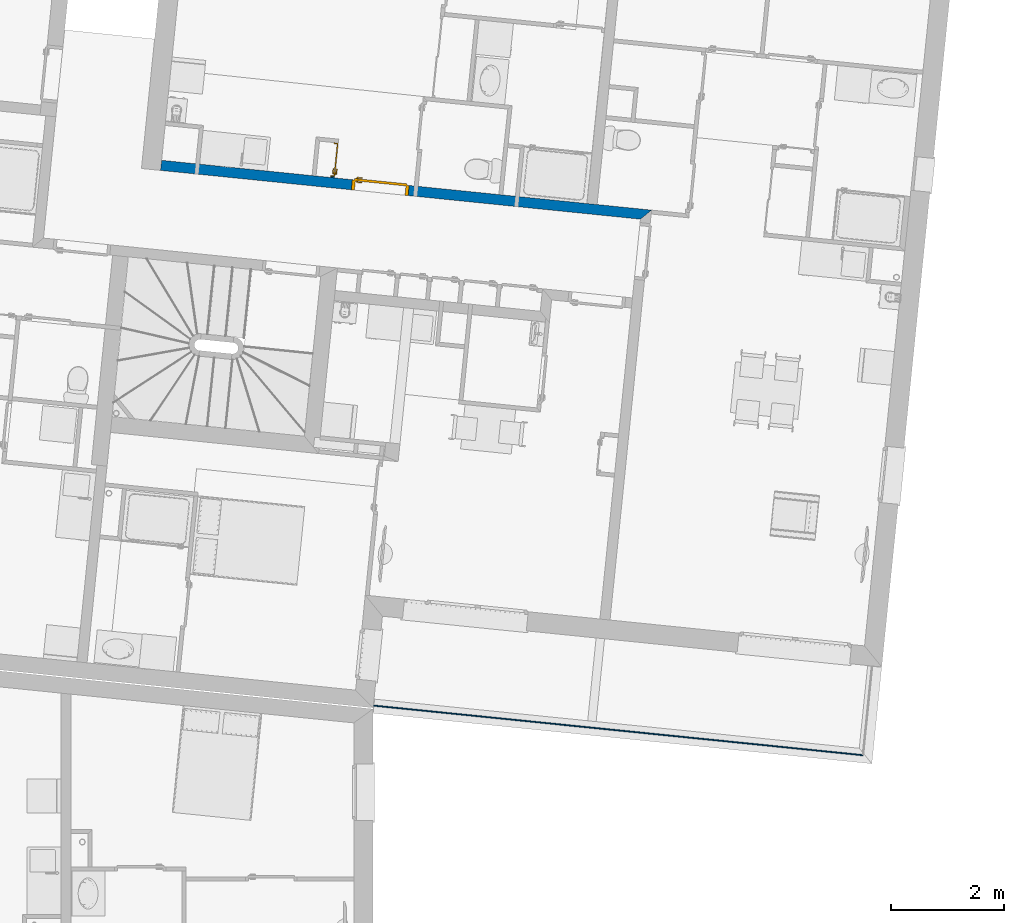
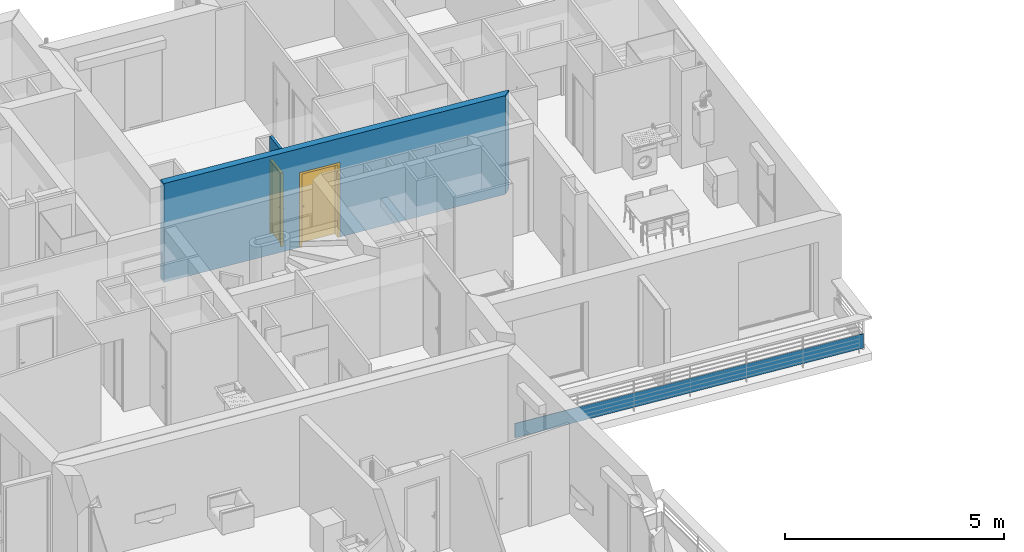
# One storey, part 52 of 164: 3 walls, 2 doors, 2 openings.
"""IFC2X3 building model written with IfcOpenShell, lengths in millimetres."""

from ifc_helpers import new_model, entity, si_unit, converted_unit, derived_unit, money_unit, direction, frame, origin_with_axes, origin_2d_with_axis, place, context, subcontext, project, spatial, polyline, rectangle, outline, extrude, faceted_brep, source, transform, mapped, material, layer, layer_set, layer_usage, type_object, element, fill, save


model = new_model("IFC2X3")

# Units and contexts
model_context = context("Model", 3, precision=0.01, world=origin_with_axes(), true_north=direction((0.0, 1.0)))
body_context = subcontext(model_context, "Body", "Model", "MODEL_VIEW")
ifc_project = project(units=[si_unit("LENGTHUNIT", "METRE", prefix="MILLI"), si_unit("AREAUNIT", "SQUARE_METRE"), si_unit("VOLUMEUNIT", "CUBIC_METRE"), converted_unit("PLANEANGLEUNIT", "DEGREE", entity("IfcPlaneAngleMeasure", 0.0174532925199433), si_unit("PLANEANGLEUNIT", "RADIAN"), dimensions=[0, 0, 0, 0, 0, 0, 0]), money_unit("USD"), converted_unit("TIMEUNIT", "Year", entity("IfcTimeMeasure", 31557600.0), si_unit("TIMEUNIT", "SECOND"), dimensions=[0, 0, 1, 0, 0, 0, 0]), si_unit("MASSUNIT", "GRAM", prefix="KILO"), si_unit("THERMODYNAMICTEMPERATUREUNIT", "DEGREE_CELSIUS"), si_unit("LUMINOUSINTENSITYUNIT", "LUMEN"), si_unit("ENERGYUNIT", "JOULE", prefix="MEGA"), derived_unit("THERMALCONDUCTANCEUNIT", [(si_unit("POWERUNIT", "WATT"), 1), (si_unit("LENGTHUNIT", "METRE"), -1), (si_unit("THERMODYNAMICTEMPERATUREUNIT", "KELVIN"), -1)]), derived_unit("SPECIFICHEATCAPACITYUNIT", [(si_unit("ENERGYUNIT", "JOULE"), 1), (si_unit("MASSUNIT", "GRAM", prefix="KILO"), -1), (si_unit("THERMODYNAMICTEMPERATUREUNIT", "KELVIN"), -1)]), derived_unit("MASSDENSITYUNIT", [(si_unit("MASSUNIT", "GRAM", prefix="KILO"), 1), (si_unit("VOLUMEUNIT", "CUBIC_METRE"), -1)])], contexts=[model_context])

# Site, building, storey
site_placement = place(None, origin_with_axes())
site = spatial("IfcSite", under=ifc_project, at=site_placement, Name="Site", CompositionType="ELEMENT")
building_placement = place(site_placement, origin_with_axes())
building = spatial("IfcBuilding", under=site, at=building_placement, Name="Bâtiment", CompositionType="ELEMENT")
storey_placement = place(building_placement, frame((0.0, 0.0, 5750.0), z_axis=(0.0, 0.0, 1.0), x_axis=(1.0, 0.0, 0.0)))
storey = spatial("IfcBuildingStorey", under=building, at=storey_placement, Name="Etage1", CompositionType="ELEMENT", Elevation=5750.0)

# Wall, opening, door
ifc_material_1 = material(Name="Parpaing 314940890")
ifc_layer_1 = layer(ifc_material_1, 180.0, ventilated="UNKNOWN")
ifc_layer_set_1 = layer_set([ifc_layer_1], Name="Beton  18 0018356637")
ifc_layer_usage_1 = layer_usage(ifc_layer_set_1, "AXIS2", "NEGATIVE", 0.0)
wall_type_1 = type_object("IfcWallType", Name="Beton  18 0018356637 180", PredefinedType="NOTDEFINED")
wall_1_placement = place(storey_placement, frame((2225575.095568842, -612292.1978368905, 0.0), z_axis=(0.0, 0.0, 1.0), x_axis=(0.9948759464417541, -0.1011031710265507, 0.0)))
wall_1 = element("IfcWallStandardCase", 1, at=wall_1_placement, inside=storey, type_object=wall_type_1, material=ifc_layer_usage_1, Name="Mur-143", context=body_context, shape_type="SweptSolid", body=[
    extrude(outline(polyline([(339.9999907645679, -180.0000000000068), (8872.887904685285, -180.0000000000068), (9052.839592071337, 0.0), (340.0000000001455, 0.0), (339.9999907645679, -180.0000000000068)])), origin_with_axes(), (0.0, 0.0, 1.0), 2750.0),
])
opening_1_placement = place(wall_1_placement, frame((4237.080372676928, 0.0, 0.0), z_axis=(0.0, 0.0, 1.0), x_axis=(1.0, 0.0, 0.0)))
opening_1 = element("IfcOpeningElement", 2, at=opening_1_placement, cuts=wall_1, Name="Por-279", context=body_context, shape_type="SweptSolid", body=[
    extrude(rectangle(XDim=1010.00001192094, YDim=2080.0, at=origin_2d_with_axis()), frame((5.960373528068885e-06, -180.0000000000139, 1040.0), z_axis=(0.0, 1.0, 0.0), x_axis=(1.0, 0.0, 0.0)), (0.0, 0.0, 1.0), 360.0),
])
door_style = type_object("IfcDoorStyle", Name="Porte_1v", ConstructionType="NOTDEFINED", OperationType="NOTDEFINED", ParameterTakesPrecedence=False, Sizeable=False)
shared_shape_1 = source(origin_with_axes(), body_context, "Body", "Brep", [
    faceted_brep([(504.9999999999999, 0.0, 0.0), (464.9999999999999, 0.0, 0.0), (464.9999999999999, 0.0, 2040.0), (-464.9999999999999, 0.0, 2040.0), (-464.9999999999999, 0.0, 0.0), (-504.9999999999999, 0.0, 0.0), (-504.9999999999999, 0.0, 2080.0), (504.9999999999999, 0.0, 2080.0), (504.9999999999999, -180.0, 0.0), (449.9999999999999, -180.0, 0.0), (449.9999999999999, -15.0, 0.0), (464.9999999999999, -15.0, 0.0), (464.9999999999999, -15.0, 2040.0), (-464.9999999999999, -15.0, 2040.0), (-464.9999999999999, -15.0, 0.0), (-449.9999999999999, -15.0, 0.0), (-449.9999999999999, -180.0, 0.0), (-504.9999999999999, -180.0, 0.0), (-504.9999999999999, -180.0, 2080.0), (504.9999999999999, -180.0, 2080.0), (-449.9999999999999, -180.0, 2025.0), (449.9999999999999, -180.0, 2025.0), (449.9999999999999, -15.0, 2025.0), (-449.9999999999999, -15.0, 2025.0)], [[[0, 1, 2, 3, 4, 5, 6, 7]], [[0, 8, 9, 10, 11, 1]], [[1, 11, 12, 2]], [[2, 12, 13, 3]], [[3, 13, 14, 4]], [[5, 4, 14, 15, 16, 17]], [[18, 6, 5, 17]], [[19, 7, 6, 18]], [[8, 0, 7, 19]], [[9, 8, 19, 18, 17, 16, 20, 21]], [[10, 9, 21, 22]], [[11, 10, 22, 23, 15, 14, 13, 12]], [[23, 20, 16, 15]], [[22, 21, 20, 23]]]),
    faceted_brep([(-399.9999999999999, -15.0, 900.0), (-439.9999999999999, -15.0, 900.0), (-439.9999999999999, -15.0, 1100.0), (-399.9999999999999, -15.0, 1100.0), (-399.9999999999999, -25.0, 900.0), (-439.9999999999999, -25.0, 900.0), (-439.9999999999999, -25.0, 1100.0), (-399.9999999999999, -25.0, 1100.0)], [[[0, 1, 2, 3]], [[1, 0, 4, 5]], [[2, 1, 5, 6]], [[3, 2, 6, 7]], [[0, 3, 7, 4]], [[5, 4, 7, 6]]]),
    faceted_brep([(-329.9999999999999, -25.0, 1000.0), (-429.9999999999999, -25.0, 1000.0), (-429.9999999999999, -25.0, 1020.0), (-329.9999999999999, -25.0, 1020.0), (-329.9999999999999, -44.99999999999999, 1000.0), (-429.9999999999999, -44.99999999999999, 1000.0), (-429.9999999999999, -44.99999999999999, 1020.0), (-329.9999999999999, -44.99999999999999, 1020.0)], [[[0, 1, 2, 3]], [[1, 0, 4, 5]], [[2, 1, 5, 6]], [[3, 2, 6, 7]], [[0, 3, 7, 4]], [[5, 4, 7, 6]]]),
    faceted_brep([(-399.9999999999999, 34.99999999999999, 900.0), (-439.9999999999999, 34.99999999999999, 900.0), (-439.9999999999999, 34.99999999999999, 1100.0), (-399.9999999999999, 34.99999999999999, 1100.0), (-399.9999999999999, 25.0, 900.0), (-439.9999999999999, 25.0, 900.0), (-439.9999999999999, 25.0, 1100.0), (-399.9999999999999, 25.0, 1100.0)], [[[0, 1, 2, 3]], [[1, 0, 4, 5]], [[2, 1, 5, 6]], [[3, 2, 6, 7]], [[0, 3, 7, 4]], [[5, 4, 7, 6]]]),
    faceted_brep([(-329.9999999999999, 55.0, 1000.0), (-429.9999999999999, 55.0, 1000.0), (-429.9999999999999, 55.0, 1020.0), (-329.9999999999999, 55.0, 1020.0), (-329.9999999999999, 34.99999999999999, 1000.0), (-429.9999999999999, 34.99999999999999, 1000.0), (-429.9999999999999, 34.99999999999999, 1020.0), (-329.9999999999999, 34.99999999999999, 1020.0)], [[[0, 1, 2, 3]], [[1, 0, 4, 5]], [[2, 1, 5, 6]], [[3, 2, 6, 7]], [[0, 3, 7, 4]], [[5, 4, 7, 6]]]),
    faceted_brep([(-464.9999999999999, 25.0, 0.0), (464.9999999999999, 25.0, 0.0), (464.9999999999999, -15.0, 0.0), (-464.9999999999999, -15.0, 0.0), (-464.9999999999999, 25.0, 2040.0), (464.9999999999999, 25.0, 2040.0), (464.9999999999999, -15.0, 2040.0), (-464.9999999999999, -15.0, 2040.0)], [[[0, 1, 2, 3]], [[0, 4, 5, 1]], [[1, 5, 6, 2]], [[3, 2, 6, 7]], [[4, 0, 3, 7]], [[5, 4, 7, 6]]]),
])
door_1_placement = place(opening_1_placement, frame((-464.9999999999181, 0.0, 0.0), z_axis=(0.0, 0.0, 1.0), x_axis=(1.0, 0.0, 0.0)))
door_1 = element("IfcDoor", 3, at=door_1_placement, inside=storey, type_object=door_style, Name="Por-279", OverallHeight=2040.0, OverallWidth=930.0, context=body_context, shape_type="MappedRepresentation", body=[
    mapped(shared_shape_1, transform((464.9999999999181, 0.0, 0.0))),
])
fill(opening_1, door_1)

ifc_material_2 = material(Name="Hachure solide 268963992")
ifc_layer_2 = layer(ifc_material_2, 70.0, ventilated="UNKNOWN")
ifc_layer_set_2 = layer_set([ifc_layer_2], Name="Cloison 70 0826278243")
ifc_layer_usage_2 = layer_usage(ifc_layer_set_2, "AXIS2", "NEGATIVE", 0.0)
wall_type_2 = type_object("IfcWallType", Name="Cloison 70 0826278243 70", PredefinedType="NOTDEFINED")
wall_2_placement = place(storey_placement, frame((2229034.548597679, -612020.9536234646, 0.0), z_axis=(0.0, 0.0, 1.0), x_axis=(-0.1005689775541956, -0.9949300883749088, 0.0)))
wall_2 = element("IfcWallStandardCase", 4, at=wall_2_placement, inside=storey, type_object=wall_type_2, material=ifc_layer_usage_2, Name="Mur-153", context=body_context, shape_type="SweptSolid", body=[
    extrude(outline(polyline([(-1.13686837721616e-10, -70.00000000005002), (619.5785189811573, -70.00000000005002), (619.6161040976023, 0.0), (0.0, 0.0), (-1.13686837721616e-10, -70.00000000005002)])), origin_with_axes(), (0.0, 0.0, 1.0), 2700.0),
])
opening_2_placement = place(wall_2_placement, frame((300.0464376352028, 2.273736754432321e-10, 0.0), z_axis=(0.0, 0.0, 1.0), x_axis=(1.0, 0.0, 0.0)))
opening_2 = element("IfcOpeningElement", 5, at=opening_2_placement, cuts=wall_2, Name="Por-274", context=body_context, shape_type="SweptSolid", body=[
    extrude(rectangle(XDim=599.9999999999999, YDim=2050.0, at=origin_2d_with_axis()), frame((0.0, -70.00000000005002, 1025.0), z_axis=(0.0, -1.0, 0.0), x_axis=(-1.0, 0.0, 0.0)), (0.0, 0.0, -1.0), 140.0),
])
shared_shape_2 = source(origin_with_axes(), body_context, "Body", "Brep", [
    faceted_brep([(-300.0, 0.0, 0.0), (-300.0, 0.0, 2050.0), (300.0, 0.0, 2050.0), (300.0, 0.0, 0.0), (290.0, 0.0, 0.0), (290.0, 0.0, 2040.0), (-290.0, 0.0, 2040.0), (-290.0, 0.0, 0.0), (-300.0, -70.0, 0.0), (-300.0, -70.0, 2050.0), (300.0, -70.0, 2050.0), (300.0, -70.0, 0.0), (279.9999999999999, -70.0, 0.0), (279.9999999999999, -15.0, 0.0), (290.0, -15.0, 0.0), (290.0, -15.0, 2040.0), (-290.0, -15.0, 2040.0), (-290.0, -15.0, 0.0), (-279.9999999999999, -15.0, 0.0), (-279.9999999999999, -70.0, 0.0), (-279.9999999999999, -70.0, 2030.0), (279.9999999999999, -70.0, 2030.0), (279.9999999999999, -15.0, 2030.0), (-279.9999999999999, -15.0, 2030.0)], [[[0, 1, 2, 3, 4, 5, 6, 7]], [[8, 9, 1, 0]], [[9, 10, 2, 1]], [[10, 11, 3, 2]], [[3, 11, 12, 13, 14, 4]], [[5, 4, 14, 15]], [[6, 5, 15, 16]], [[7, 6, 16, 17]], [[0, 7, 17, 18, 19, 8]], [[19, 20, 21, 12, 11, 10, 9, 8]], [[22, 13, 12, 21]], [[17, 16, 15, 14, 13, 22, 23, 18]], [[18, 23, 20, 19]], [[23, 22, 21, 20]]]),
    faceted_brep([(224.9999999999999, -15.0, 900.0), (224.9999999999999, -15.0, 1100.0), (264.9999999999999, -15.0, 1100.0), (264.9999999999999, -15.0, 900.0), (224.9999999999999, -25.0, 900.0), (224.9999999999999, -25.0, 1100.0), (264.9999999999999, -25.0, 1100.0), (264.9999999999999, -25.0, 900.0)], [[[0, 1, 2, 3]], [[0, 4, 5, 1]], [[1, 5, 6, 2]], [[2, 6, 7, 3]], [[3, 7, 4, 0]], [[7, 6, 5, 4]]]),
    faceted_brep([(154.9999999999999, -25.0, 1000.0), (154.9999999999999, -25.0, 1020.0), (254.9999999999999, -25.0, 1020.0), (254.9999999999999, -25.0, 1000.0), (154.9999999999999, -45.0, 1000.0), (154.9999999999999, -45.0, 1020.0), (254.9999999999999, -45.0, 1020.0), (254.9999999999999, -45.0, 1000.0)], [[[0, 1, 2, 3]], [[0, 4, 5, 1]], [[1, 5, 6, 2]], [[2, 6, 7, 3]], [[3, 7, 4, 0]], [[7, 6, 5, 4]]]),
    faceted_brep([(224.9999999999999, 15.0, 900.0), (224.9999999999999, 15.0, 1100.0), (264.9999999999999, 15.0, 1100.0), (264.9999999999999, 15.0, 900.0), (224.9999999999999, 5.000000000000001, 900.0), (224.9999999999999, 5.000000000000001, 1100.0), (264.9999999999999, 5.000000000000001, 1100.0), (264.9999999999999, 5.000000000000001, 900.0)], [[[0, 1, 2, 3]], [[0, 4, 5, 1]], [[1, 5, 6, 2]], [[2, 6, 7, 3]], [[3, 7, 4, 0]], [[7, 6, 5, 4]]]),
    faceted_brep([(154.9999999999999, 35.0, 1000.0), (154.9999999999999, 35.0, 1020.0), (254.9999999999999, 35.0, 1020.0), (254.9999999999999, 35.0, 1000.0), (154.9999999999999, 15.0, 1000.0), (154.9999999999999, 15.0, 1020.0), (254.9999999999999, 15.0, 1020.0), (254.9999999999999, 15.0, 1000.0)], [[[0, 1, 2, 3]], [[0, 4, 5, 1]], [[1, 5, 6, 2]], [[2, 6, 7, 3]], [[3, 7, 4, 0]], [[7, 6, 5, 4]]]),
    faceted_brep([(290.0, 5.000000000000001, 0.0), (290.0, -15.0, 0.0), (-290.0, -15.0, 0.0), (-290.0, 5.000000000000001, 0.0), (290.0, 5.000000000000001, 2040.0), (290.0, -15.0, 2040.0), (-290.0, -15.0, 2040.0), (-290.0, 5.000000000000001, 2040.0)], [[[0, 1, 2, 3]], [[4, 5, 1, 0]], [[1, 5, 6, 2]], [[3, 2, 6, 7]], [[0, 3, 7, 4]], [[7, 6, 5, 4]]]),
])
door_2_placement = place(opening_2_placement, frame((-289.9999999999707, 1.13686837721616e-10, 0.0), z_axis=(0.0, 0.0, 1.0), x_axis=(1.0, 0.0, 0.0)))
door_2 = element("IfcDoor", 6, at=door_2_placement, inside=storey, type_object=door_style, Name="Por-274", OverallHeight=2040.0, OverallWidth=580.0, context=body_context, shape_type="MappedRepresentation", body=[
    mapped(shared_shape_2, transform((289.999999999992, 1.13686837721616e-10, 0.0))),
])
fill(opening_2, door_2)

# Wall
ifc_material_3 = material(Name="MANQUANT")
ifc_layer_3 = layer(ifc_material_3, 20.0, ventilated="UNKNOWN")
ifc_layer_set_3 = layer_set([ifc_layer_3], Name="MANQUANT 20")
ifc_layer_usage_3 = layer_usage(ifc_layer_set_3, "AXIS2", "NEGATIVE", 20.0)
wall_type_3 = type_object("IfcWallType", Name="MANQUANT 20", PredefinedType="NOTDEFINED")
wall_3_placement = place(storey_placement, frame((2229668.480230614, -621983.7944070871, 99.99999999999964), z_axis=(0.0, 0.0, 1.0), x_axis=(0.9949030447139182, -0.1008361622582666, 0.0)))
element("IfcWallStandardCase", 7, at=wall_3_placement, inside=storey, type_object=wall_type_3, material=ifc_layer_usage_3, Name="Mur-162", context=body_context, shape_type="SweptSolid", body=[
    extrude(outline(polyline([(0.0, 0.0), (8705.397281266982, 0.0), (8685.397281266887, 20.00000000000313), (1.13686837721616e-10, 20.00000000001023), (0.0, 0.0)])), origin_with_axes(), (0.0, 0.0, 1.0), 400.0),
])

save(model, "model.ifc")
